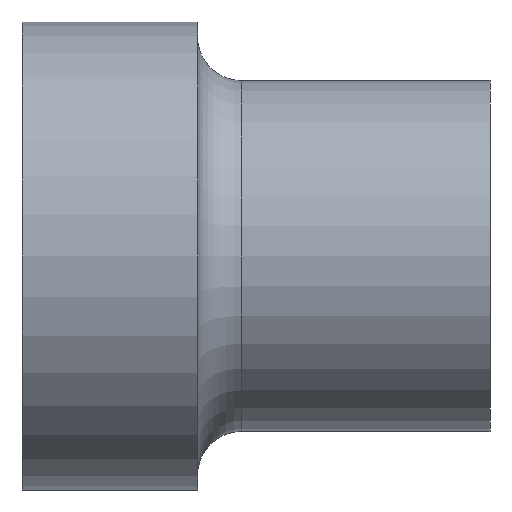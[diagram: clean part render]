
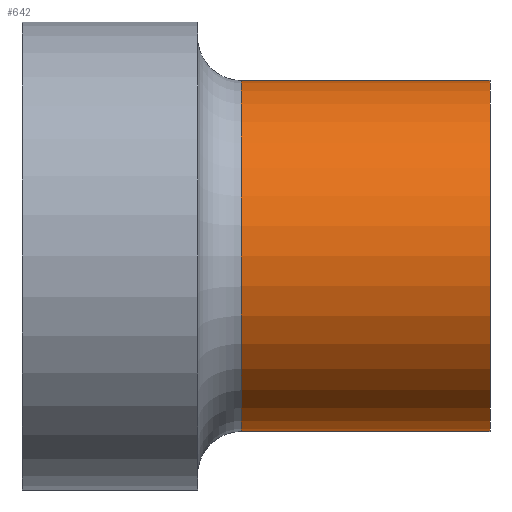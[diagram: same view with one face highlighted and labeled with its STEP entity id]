
A CAD part, left-side view. The second image highlights one B-rep face of the part: STEP entity #642.
In plain terms, the highlighted cylindrical face has radius 12 mm (diameter 24 mm), a partial arc.
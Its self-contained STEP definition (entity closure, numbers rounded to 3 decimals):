
#41=LINE('',#1141,#89);
#42=LINE('',#1145,#90);
#89=VECTOR('',#908,17.);
#90=VECTOR('',#911,17.);
#130=CYLINDRICAL_SURFACE('',#760,12.);
#148=FACE_OUTER_BOUND('',#179,.T.);
#179=EDGE_LOOP('',(#528,#529,#530,#531));
#228=CIRCLE('',#761,12.);
#229=CIRCLE('',#762,12.);
#304=VERTEX_POINT('',#1139);
#305=VERTEX_POINT('',#1140);
#306=VERTEX_POINT('',#1142);
#307=VERTEX_POINT('',#1144);
#416=EDGE_CURVE('',#304,#305,#41,.T.);
#417=EDGE_CURVE('',#305,#306,#228,.T.);
#418=EDGE_CURVE('',#306,#307,#42,.T.);
#419=EDGE_CURVE('',#307,#304,#229,.T.);
#528=ORIENTED_EDGE('',*,*,#416,.T.);
#529=ORIENTED_EDGE('',*,*,#417,.T.);
#530=ORIENTED_EDGE('',*,*,#418,.T.);
#531=ORIENTED_EDGE('',*,*,#419,.T.);
#642=ADVANCED_FACE('',(#148),#130,.T.);
#760=AXIS2_PLACEMENT_3D('',#1138,#906,#907);
#761=AXIS2_PLACEMENT_3D('',#1143,#909,#910);
#762=AXIS2_PLACEMENT_3D('',#1146,#912,#913);
#906=DIRECTION('center_axis',(0.,-1.,0.));
#907=DIRECTION('ref_axis',(0.,0.,-1.));
#908=DIRECTION('',(0.,1.,0.));
#909=DIRECTION('center_axis',(0.,-1.,0.));
#910=DIRECTION('ref_axis',(0.,0.,1.));
#911=DIRECTION('',(0.,-1.,0.));
#912=DIRECTION('center_axis',(0.,1.,0.));
#913=DIRECTION('ref_axis',(0.,0.,-1.));
#1138=CARTESIAN_POINT('Origin',(0.,8.5,0.));
#1139=CARTESIAN_POINT('',(0.,0.,12.));
#1140=CARTESIAN_POINT('',(0.,17.,12.));
#1141=CARTESIAN_POINT('',(0.,0.,12.));
#1142=CARTESIAN_POINT('',(0.,17.,-12.));
#1143=CARTESIAN_POINT('Origin',(0.,17.,0.));
#1144=CARTESIAN_POINT('',(0.,0.,-12.));
#1145=CARTESIAN_POINT('',(0.,17.,-12.));
#1146=CARTESIAN_POINT('Origin',(0.,0.,0.));
